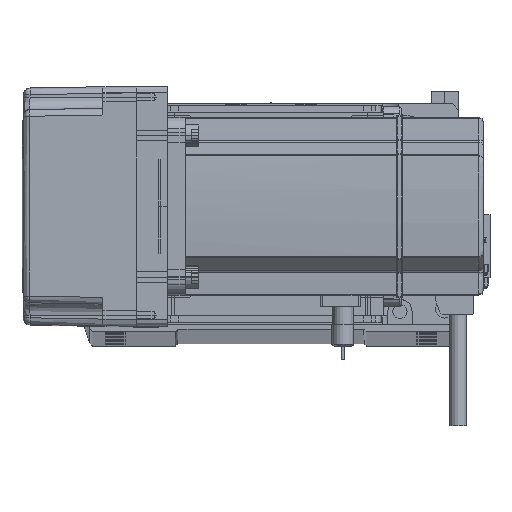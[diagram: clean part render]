
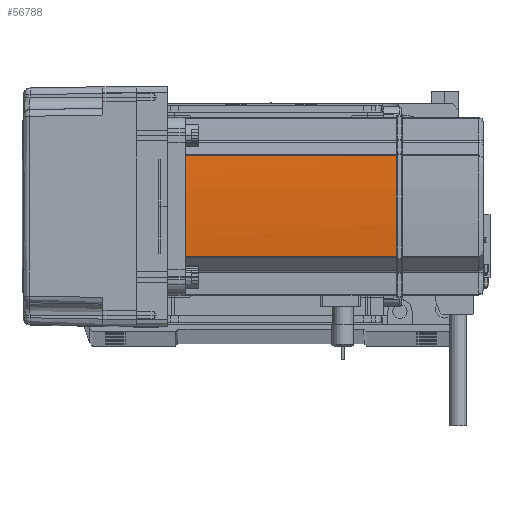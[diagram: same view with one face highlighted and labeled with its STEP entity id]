
A CAD part, top view. The second image highlights one B-rep face of the part: STEP entity #56788.
In plain terms, the highlighted cylindrical face has radius 270 mm (diameter 540 mm), a partial arc.
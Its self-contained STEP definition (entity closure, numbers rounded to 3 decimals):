
#1056 = LINE ( 'NONE', #12777, #50206 ) ;
#1703 = VERTEX_POINT ( 'NONE', #26096 ) ;
#6276 = CARTESIAN_POINT ( 'NONE',  ( 40., -0.127, 134. ) ) ;
#7917 = EDGE_CURVE ( 'NONE', #35675, #30250, #65430, .T. ) ;
#8713 = DIRECTION ( 'NONE',  ( -1., 0., 0. ) ) ;
#8816 = EDGE_CURVE ( 'NONE', #16961, #30250, #9575, .T. ) ;
#9157 = CARTESIAN_POINT ( 'NONE',  ( 39.042, 22.724, 134. ) ) ;
#9261 = CARTESIAN_POINT ( 'NONE',  ( -230., 0., 39. ) ) ;
#9483 = DIRECTION ( 'NONE',  ( 0., 0., -1. ) ) ;
#9575 = LINE ( 'NONE', #21625, #64504 ) ;
#11299 = EDGE_CURVE ( 'NONE', #33068, #12839, #40903, .T. ) ;
#12777 = CARTESIAN_POINT ( 'NONE',  ( 39.042, 22.724, 58. ) ) ;
#12839 = VERTEX_POINT ( 'NONE', #14310 ) ;
#14310 = CARTESIAN_POINT ( 'NONE',  ( 40., 0.127, 134. ) ) ;
#15320 = EDGE_CURVE ( 'NONE', #1703, #16961, #17325, .T. ) ;
#16961 = VERTEX_POINT ( 'NONE', #49626 ) ;
#17229 = CARTESIAN_POINT ( 'NONE',  ( -230., 0., 134. ) ) ;
#17325 = CIRCLE ( 'NONE', #28029, 270. ) ;
#17716 = DIRECTION ( 'NONE',  ( -1., 0., 0. ) ) ;
#21047 = AXIS2_PLACEMENT_3D ( 'NONE', #26531, #37690, #63692 ) ;
#21625 = CARTESIAN_POINT ( 'NONE',  ( 39.042, -22.724, 58. ) ) ;
#22524 = EDGE_CURVE ( 'NONE', #1703, #12839, #57170, .T. ) ;
#24773 = CARTESIAN_POINT ( 'NONE',  ( -230., 0., 58. ) ) ;
#25829 = ORIENTED_EDGE ( 'NONE', *, *, #15320, .T. ) ;
#26096 = CARTESIAN_POINT ( 'NONE',  ( 40., -0.127, 134. ) ) ;
#26531 = CARTESIAN_POINT ( 'NONE',  ( -230., 0., 134. ) ) ;
#28029 = AXIS2_PLACEMENT_3D ( 'NONE', #17229, #59985, #17716 ) ;
#30250 = VERTEX_POINT ( 'NONE', #30688 ) ;
#30603 = ORIENTED_EDGE ( 'NONE', *, *, #11299, .T. ) ;
#30673 = CYLINDRICAL_SURFACE ( 'NONE', #53057, 270. ) ;
#30688 = CARTESIAN_POINT ( 'NONE',  ( 39.042, -22.724, 39. ) ) ;
#32402 = CARTESIAN_POINT ( 'NONE',  ( 40., 0.127, 134. ) ) ;
#33068 = VERTEX_POINT ( 'NONE', #9157 ) ;
#34017 = ORIENTED_EDGE ( 'NONE', *, *, #64345, .T. ) ;
#35675 = VERTEX_POINT ( 'NONE', #49954 ) ;
#37690 = DIRECTION ( 'NONE',  ( 0., 0., -1. ) ) ;
#37959 = CARTESIAN_POINT ( 'NONE',  ( 40., -0.042, 134. ) ) ;
#38133 = EDGE_LOOP ( 'NONE', ( #49938, #65347, #34017, #30603, #48482, #25829 ) ) ;
#40903 = CIRCLE ( 'NONE', #21047, 270. ) ;
#48482 = ORIENTED_EDGE ( 'NONE', *, *, #22524, .F. ) ;
#49626 = CARTESIAN_POINT ( 'NONE',  ( 39.042, -22.724, 134. ) ) ;
#49938 = ORIENTED_EDGE ( 'NONE', *, *, #8816, .T. ) ;
#49954 = CARTESIAN_POINT ( 'NONE',  ( 39.042, 22.724, 39. ) ) ;
#50206 = VECTOR ( 'NONE', #55079, 1000. ) ;
#50529 = DIRECTION ( 'NONE',  ( 0., 0., -1. ) ) ;
#53057 = AXIS2_PLACEMENT_3D ( 'NONE', #24773, #50529, #8713 ) ;
#53719 = CARTESIAN_POINT ( 'NONE',  ( 40., 0.042, 134. ) ) ;
#55079 = DIRECTION ( 'NONE',  ( 0., 0., 1. ) ) ;
#56788 = ADVANCED_FACE ( 'NONE', ( #68942 ), #30673, .T. ) ;
#57170 = B_SPLINE_CURVE_WITH_KNOTS ( 'NONE', 3,
 ( #6276, #37959, #53719, #32402 ),
 .UNSPECIFIED., .F., .F.,
 ( 4, 4 ),
 ( 0., 1. ),
 .UNSPECIFIED. ) ;
#59985 = DIRECTION ( 'NONE',  ( 0., 0., -1. ) ) ;
#63692 = DIRECTION ( 'NONE',  ( -1., 0., 0. ) ) ;
#64145 = DIRECTION ( 'NONE',  ( 0., 0., -1. ) ) ;
#64345 = EDGE_CURVE ( 'NONE', #35675, #33068, #1056, .T. ) ;
#64504 = VECTOR ( 'NONE', #64145, 1000. ) ;
#65347 = ORIENTED_EDGE ( 'NONE', *, *, #7917, .F. ) ;
#65430 = CIRCLE ( 'NONE', #68055, 270. ) ;
#67395 = DIRECTION ( 'NONE',  ( -1., 0., 0. ) ) ;
#68055 = AXIS2_PLACEMENT_3D ( 'NONE', #9261, #9483, #67395 ) ;
#68942 = FACE_OUTER_BOUND ( 'NONE', #38133, .T. ) ;
